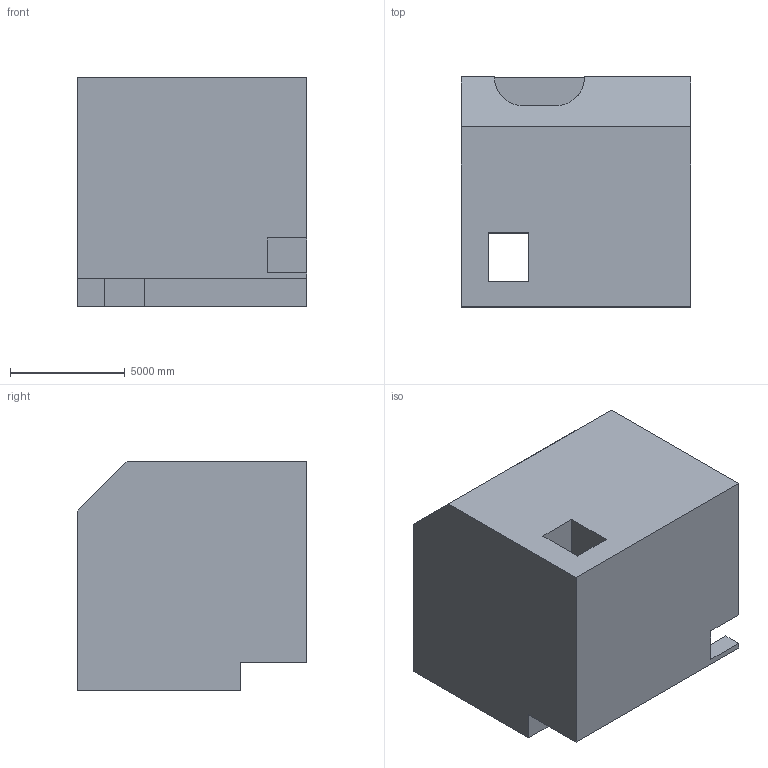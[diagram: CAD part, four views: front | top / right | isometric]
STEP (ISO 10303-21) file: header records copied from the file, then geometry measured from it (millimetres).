
FILE_DESCRIPTION (( 'STEP AP203' ), '1' );
FILE_NAME ('658.STEP', '2022-07-29T12:21:19', ( 'user' ), ( '' ), 'SwSTEP 2.0', 'SolidWorks 2021', '' );
FILE_SCHEMA (( 'CONFIG_CONTROL_DESIGN' ));
Length unit declared in the file: centimetre
Products named in the file (1): 658
Bounding box: 10000 x 10000 x 10000 mm (x, y, z)
Volume: 850037316950 mm3; surface area: 697163221.6 mm2
Topology: 1 solids, 1 shells, 37 faces, 105 edges, 70 vertices
Faces by surface type: plane 35, cylinder 2
Entity records: 1262 total; most frequent: CARTESIAN_POINT 219, ORIENTED_EDGE 210, DIRECTION 181, EDGE_CURVE 105, LINE 101, VECTOR 101, VERTEX_POINT 70, AXIS2_PLACEMENT_3D 40
